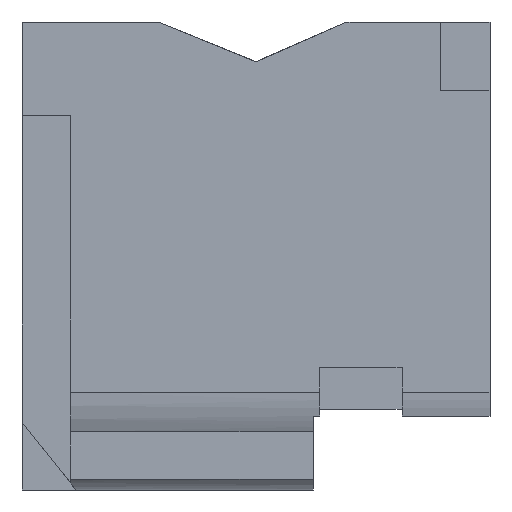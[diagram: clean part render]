
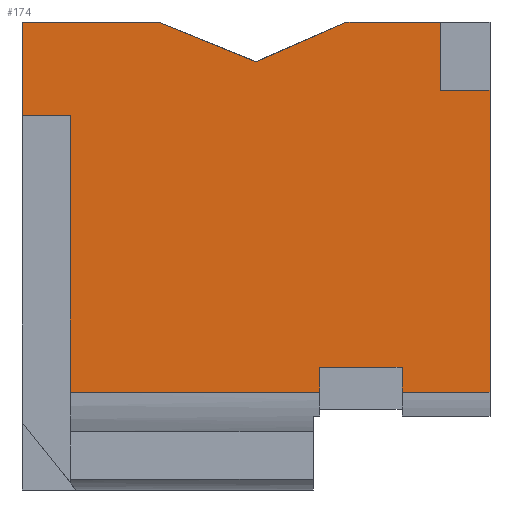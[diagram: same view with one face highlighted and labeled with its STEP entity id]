
A CAD part, left-side view. The second image highlights one B-rep face of the part: STEP entity #174.
In plain terms, the highlighted planar face has unit normal (-1, 0, 0).
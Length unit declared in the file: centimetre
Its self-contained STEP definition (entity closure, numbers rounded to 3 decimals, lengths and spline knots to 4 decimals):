
#12 = VECTOR ( 'NONE', #929, 100. ) ;
#21 = CARTESIAN_POINT ( 'NONE',  ( 0., 0., 854.318 ) ) ;
#44 = VERTEX_POINT ( 'NONE', #339 ) ;
#54 = DIRECTION ( 'NONE',  ( 0., 0.927, 0.376 ) ) ;
#61 = CARTESIAN_POINT ( 'NONE',  ( 0., 104.9261, 854.318 ) ) ;
#81 = CARTESIAN_POINT ( 'NONE',  ( 0., 187.9775, 262.3583 ) ) ;
#100 = CARTESIAN_POINT ( 'NONE',  ( 0., 305.6083, 1000. ) ) ;
#107 = DIRECTION ( 'NONE',  ( 0., -1., 0. ) ) ;
#108 = VERTEX_POINT ( 'NONE', #336 ) ;
#123 = ORIENTED_EDGE ( 'NONE', *, *, #409, .F. ) ;
#131 = VECTOR ( 'NONE', #160, 100. ) ;
#135 = CARTESIAN_POINT ( 'NONE',  ( 0., 896.4335, 208.9788 ) ) ;
#145 = VERTEX_POINT ( 'NONE', #1103 ) ;
#148 = DIRECTION ( 'NONE',  ( 0., -1., 0. ) ) ;
#151 = EDGE_CURVE ( 'NONE', #712, #108, #266, .T. ) ;
#153 = VERTEX_POINT ( 'NONE', #611 ) ;
#155 = ORIENTED_EDGE ( 'NONE', *, *, #240, .F. ) ;
#160 = DIRECTION ( 'NONE',  ( 0., 0.916, -0.4 ) ) ;
#169 = CARTESIAN_POINT ( 'NONE',  ( 0., 1000., 1000. ) ) ;
#174 = ADVANCED_FACE ( 'NONE', ( #825 ), #658, .F. ) ;
#179 = LINE ( 'NONE', #268, #210 ) ;
#190 = VERTEX_POINT ( 'NONE', #910 ) ;
#194 = LINE ( 'NONE', #691, #638 ) ;
#210 = VECTOR ( 'NONE', #966, 100. ) ;
#219 = LINE ( 'NONE', #1059, #889 ) ;
#228 = VERTEX_POINT ( 'NONE', #303 ) ;
#231 = LINE ( 'NONE', #61, #540 ) ;
#237 = CARTESIAN_POINT ( 'NONE',  ( 0., 500., 915.1192 ) ) ;
#239 = CARTESIAN_POINT ( 'NONE',  ( 0., 187.9775, 262.3583 ) ) ;
#240 = EDGE_CURVE ( 'NONE', #319, #44, #219, .T. ) ;
#246 = CARTESIAN_POINT ( 'NONE',  ( 0., 896.4335, 800.3355 ) ) ;
#264 = VECTOR ( 'NONE', #407, 100. ) ;
#265 = DIRECTION ( 'NONE',  ( 0., -1., 0. ) ) ;
#266 = LINE ( 'NONE', #940, #439 ) ;
#268 = CARTESIAN_POINT ( 'NONE',  ( 0., 187.9775, 86.103 ) ) ;
#275 = CARTESIAN_POINT ( 'NONE',  ( 0., 305.6083, 1000. ) ) ;
#276 = LINE ( 'NONE', #237, #899 ) ;
#293 = DIRECTION ( 'NONE',  ( 0., 0., -1. ) ) ;
#303 = CARTESIAN_POINT ( 'NONE',  ( 0., 709.3785, 1000. ) ) ;
#313 = ORIENTED_EDGE ( 'NONE', *, *, #1085, .T. ) ;
#316 = DIRECTION ( 'NONE',  ( 1., 0., 0. ) ) ;
#319 = VERTEX_POINT ( 'NONE', #1016 ) ;
#320 = DIRECTION ( 'NONE',  ( 0., 0., -1. ) ) ;
#322 = LINE ( 'NONE', #1021, #264 ) ;
#330 = VERTEX_POINT ( 'NONE', #81 ) ;
#335 = EDGE_CURVE ( 'NONE', #804, #153, #754, .T. ) ;
#336 = CARTESIAN_POINT ( 'NONE',  ( 0., 0., 208.9788 ) ) ;
#339 = CARTESIAN_POINT ( 'NONE',  ( 0., 364.103, 208.9788 ) ) ;
#364 = EDGE_LOOP ( 'NONE', ( #747, #619, #421, #155, #830, #903, #909, #123, #787, #933, #1065, #1075, #480, #1009, #313 ) ) ;
#381 = DIRECTION ( 'NONE',  ( 0., 0., -1. ) ) ;
#407 = DIRECTION ( 'NONE',  ( 0., 0., -1. ) ) ;
#409 = EDGE_CURVE ( 'NONE', #710, #108, #322, .T. ) ;
#412 = VERTEX_POINT ( 'NONE', #169 ) ;
#421 = ORIENTED_EDGE ( 'NONE', *, *, #905, .T. ) ;
#423 = EDGE_CURVE ( 'NONE', #330, #319, #429, .T. ) ;
#429 = LINE ( 'NONE', #239, #1014 ) ;
#439 = VECTOR ( 'NONE', #509, 100. ) ;
#445 = DIRECTION ( 'NONE',  ( 0., -1., 0. ) ) ;
#447 = VERTEX_POINT ( 'NONE', #275 ) ;
#464 = CARTESIAN_POINT ( 'NONE',  ( 0., 896.4335, 800.3355 ) ) ;
#468 = EDGE_CURVE ( 'NONE', #712, #330, #179, .T. ) ;
#480 = ORIENTED_EDGE ( 'NONE', *, *, #807, .T. ) ;
#485 = EDGE_CURVE ( 'NONE', #190, #710, #194, .T. ) ;
#509 = DIRECTION ( 'NONE',  ( 0., -1., 0. ) ) ;
#525 = EDGE_CURVE ( 'NONE', #447, #145, #623, .T. ) ;
#540 = VECTOR ( 'NONE', #320, 100. ) ;
#555 = LINE ( 'NONE', #637, #1026 ) ;
#560 = VECTOR ( 'NONE', #148, 100. ) ;
#576 = CARTESIAN_POINT ( 'NONE',  ( 0., 500., 915.1192 ) ) ;
#579 = VECTOR ( 'NONE', #690, 100. ) ;
#605 = AXIS2_PLACEMENT_3D ( 'NONE', #740, #316, #816 ) ;
#606 = VECTOR ( 'NONE', #265, 100. ) ;
#611 = CARTESIAN_POINT ( 'NONE',  ( 0., 1000., 800.3355 ) ) ;
#619 = ORIENTED_EDGE ( 'NONE', *, *, #640, .T. ) ;
#623 = LINE ( 'NONE', #1031, #606 ) ;
#637 = CARTESIAN_POINT ( 'NONE',  ( 0., 896.4335, 800.3355 ) ) ;
#638 = VECTOR ( 'NONE', #445, 100. ) ;
#640 = EDGE_CURVE ( 'NONE', #804, #877, #555, .T. ) ;
#658 = PLANE ( 'NONE',  #605 ) ;
#677 = CARTESIAN_POINT ( 'NONE',  ( 0., 1000., 1000. ) ) ;
#681 = EDGE_CURVE ( 'NONE', #412, #228, #809, .T. ) ;
#684 = DIRECTION ( 'NONE',  ( 0., 1., 0. ) ) ;
#690 = DIRECTION ( 'NONE',  ( 0., 0., -1. ) ) ;
#691 = CARTESIAN_POINT ( 'NONE',  ( 0., 0., 854.318 ) ) ;
#709 = CARTESIAN_POINT ( 'NONE',  ( 0., 187.9775, 208.9788 ) ) ;
#710 = VERTEX_POINT ( 'NONE', #21 ) ;
#712 = VERTEX_POINT ( 'NONE', #709 ) ;
#740 = CARTESIAN_POINT ( 'NONE',  ( 0., 1000., 1000. ) ) ;
#747 = ORIENTED_EDGE ( 'NONE', *, *, #335, .F. ) ;
#754 = LINE ( 'NONE', #246, #12 ) ;
#773 = LINE ( 'NONE', #677, #579 ) ;
#787 = ORIENTED_EDGE ( 'NONE', *, *, #485, .F. ) ;
#793 = VECTOR ( 'NONE', #107, 100. ) ;
#803 = CARTESIAN_POINT ( 'NONE',  ( 0., 1000., 1000. ) ) ;
#804 = VERTEX_POINT ( 'NONE', #464 ) ;
#807 = EDGE_CURVE ( 'NONE', #876, #228, #276, .T. ) ;
#809 = LINE ( 'NONE', #803, #793 ) ;
#816 = DIRECTION ( 'NONE',  ( 0., 0., -1. ) ) ;
#825 = FACE_OUTER_BOUND ( 'NONE', #364, .T. ) ;
#830 = ORIENTED_EDGE ( 'NONE', *, *, #423, .F. ) ;
#837 = EDGE_CURVE ( 'NONE', #145, #190, #231, .T. ) ;
#858 = LINE ( 'NONE', #100, #131 ) ;
#876 = VERTEX_POINT ( 'NONE', #576 ) ;
#877 = VERTEX_POINT ( 'NONE', #135 ) ;
#889 = VECTOR ( 'NONE', #293, 100. ) ;
#899 = VECTOR ( 'NONE', #54, 100. ) ;
#903 = ORIENTED_EDGE ( 'NONE', *, *, #468, .F. ) ;
#905 = EDGE_CURVE ( 'NONE', #877, #44, #1003, .T. ) ;
#909 = ORIENTED_EDGE ( 'NONE', *, *, #151, .T. ) ;
#910 = CARTESIAN_POINT ( 'NONE',  ( 0., 104.9261, 854.318 ) ) ;
#919 = CARTESIAN_POINT ( 'NONE',  ( 0., 1000., 208.9788 ) ) ;
#929 = DIRECTION ( 'NONE',  ( 0., 1., 0. ) ) ;
#933 = ORIENTED_EDGE ( 'NONE', *, *, #837, .F. ) ;
#940 = CARTESIAN_POINT ( 'NONE',  ( 0., 1000., 208.9788 ) ) ;
#966 = DIRECTION ( 'NONE',  ( 0., 0., 1. ) ) ;
#1001 = EDGE_CURVE ( 'NONE', #447, #876, #858, .T. ) ;
#1003 = LINE ( 'NONE', #919, #560 ) ;
#1009 = ORIENTED_EDGE ( 'NONE', *, *, #681, .F. ) ;
#1014 = VECTOR ( 'NONE', #684, 100. ) ;
#1016 = CARTESIAN_POINT ( 'NONE',  ( 0., 364.103, 262.3583 ) ) ;
#1021 = CARTESIAN_POINT ( 'NONE',  ( 0., 0., 1000. ) ) ;
#1026 = VECTOR ( 'NONE', #381, 100. ) ;
#1031 = CARTESIAN_POINT ( 'NONE',  ( 0., 1000., 1000. ) ) ;
#1059 = CARTESIAN_POINT ( 'NONE',  ( 0., 364.103, 86.103 ) ) ;
#1065 = ORIENTED_EDGE ( 'NONE', *, *, #525, .F. ) ;
#1075 = ORIENTED_EDGE ( 'NONE', *, *, #1001, .T. ) ;
#1085 = EDGE_CURVE ( 'NONE', #412, #153, #773, .T. ) ;
#1103 = CARTESIAN_POINT ( 'NONE',  ( 0., 104.9261, 1000. ) ) ;
